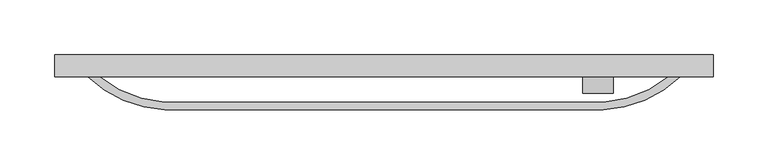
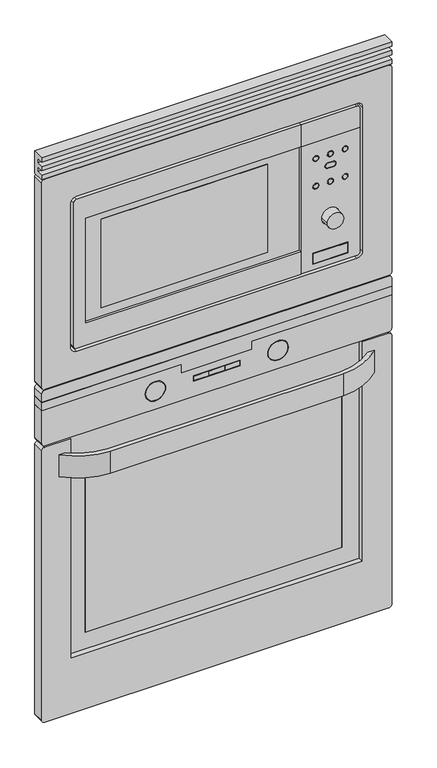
"""IFC4 building model written with IfcOpenShell, lengths in millimetres: proxy geometry, Horno_-_Microondas__Oven_-_Microwave_16796 : Horno_-_Microondas__Oven_-_Microwave_16796."""

from ifc_helpers import new_model, si_unit, point, frame, frame_2d, origin, place, context, project, spatial, polyline, circle_curve, trimmed, segment, composite_curve, outline, extrude, source, transform, mapped, element, save


def specialty_equipment_90c1c6b7(model_context):
    return source(origin(), model_context, "Body", "SweptSolid", [
        extrude(outline(polyline([(0.0, 983.0), (-20.0, 983.0), (-20.0, 991.0), (-8.0, 991.0), (-8.0, 999.0), (-20.0, 999.0), (-20.0, 1007.0), (-8.0, 1007.0), (-8.0, 1015.0), (-20.0, 1015.0), (-20.0, 1023.0), (0.0, 1023.0), (0.0, 983.0)])), frame((-300.0, 0.0, 0.0), z_axis=(1.0, 0.0, 0.0), x_axis=(0.0, 1.0, 0.0)), (0.0, 0.0, 1.0), 600.0),
        extrude(outline(composite_curve([segment(polyline([(-270.0, -20.0), (-259.3060788, -20.0)]), True, "CONTINUOUS"), segment(trimmed(circle_curve(frame_2d((-193.2923747, 62.3177923)), 105.5179039), [point((-259.3060788, -20.0))], [point((-199.7878096, -43.0))], True, "CARTESIAN"), True, "CONTINUOUS"), segment(polyline([(-199.7878096, -43.0), (199.7878096, -43.0)]), True, "CONTINUOUS"), segment(trimmed(circle_curve(frame_2d((193.2923747, 62.3177923)), 105.5179039), [point((199.7878096, -43.0))], [point((259.3060788, -20.0))], True, "CARTESIAN"), True, "CONTINUOUS"), segment(polyline([(259.3060788, -20.0), (270.0, -20.0)]), True, "CONTINUOUS"), segment(trimmed(circle_curve(frame_2d((193.2923747, 62.3177923)), 112.5179039), [point((270.0, -20.0))], [point((200.0, -50.0))], False, "CARTESIAN"), True, "CONTINUOUS"), segment(polyline([(200.0, -50.0), (-200.0, -50.0)]), True, "CONTINUOUS"), segment(trimmed(circle_curve(frame_2d((-193.2923747, 62.3177923)), 112.5179039), [point((-200.0, -50.0))], [point((-270.0, -20.0))], False, "CARTESIAN"), True, "CONTINUOUS")], self_intersect=False)), frame((0.0, 0.0, 435.0), z_axis=(0.0, 0.0, 1.0), x_axis=(1.0, 0.0, 0.0)), (0.0, 0.0, 1.0), 40.0),
        extrude(outline(polyline([(90.0, -15.0), (-195.0, -15.0), (-195.0, -5.0), (90.0, -5.0), (90.0, -15.0)])), frame((0.0, 0.0, 712.0), z_axis=(0.0, 0.0, 1.0), x_axis=(1.0, 0.0, 0.0)), (0.0, 0.0, 1.0), 160.0),
        extrude(outline(polyline([(220.0, -10.0), (-220.0, -10.0), (-220.0, 0.0), (220.0, 0.0), (220.0, -10.0)])), frame((0.0, 0.0, 130.0), z_axis=(0.0, 0.0, 1.0), x_axis=(1.0, 0.0, 0.0)), (0.0, 0.0, 1.0), 284.0),
        extrude(outline(composite_curve([segment(trimmed(circle_curve(frame_2d((744.5, 195.0)), 14.0), [point((744.5, 181.0))], [point((744.5, 209.0))], False, "CARTESIAN"), True, "CONTINUOUS"), segment(trimmed(circle_curve(frame_2d((744.5, 195.0)), 14.0), [point((744.5, 209.0))], [point((744.5, 181.0))], False, "CARTESIAN"), True, "CONTINUOUS")], self_intersect=False)), frame((0.0, -35.0, 0.0), z_axis=(0.0, 1.0, 0.0), x_axis=(0.0, 0.0, 1.0)), (0.0, 0.0, 1.0), 35.0),
        extrude(outline(polyline([(580.0, 300.0), (580.0, -300.0), (565.0, -300.0), (565.0, -60.0), (550.0, -60.0), (550.0, 60.0), (565.0, 60.0), (565.0, 300.0), (580.0, 300.0)])), frame((0.0, -20.0, 0.0), z_axis=(0.0, 1.0, 0.0), x_axis=(0.0, 0.0, 1.0)), (0.0, 0.0, 1.0), 20.0),
        extrude(outline(composite_curve([segment(trimmed(circle_curve(frame_2d((922.0, 240.0)), 5.0), [point((922.0, 245.0))], [point((927.0, 240.0))], False, "CARTESIAN"), True, "CONTINUOUS"), segment(polyline([(927.0, 240.0), (927.0, 145.0), (887.0, 145.0), (887.0, 245.0), (922.0, 245.0)]), True, "CONTINUOUS")], self_intersect=False)), frame((0.0, -20.0, 0.0), z_axis=(0.0, 1.0, 0.0), x_axis=(0.0, 0.0, 1.0)), (0.0, 0.0, 1.0), 20.0),
        extrude(outline(polyline([(887.0, 144.0), (887.0, -225.0), (697.0, -225.0), (697.0, 144.0), (887.0, 144.0)]), holes=[polyline([(872.0, 90.0), (712.0, 90.0), (712.0, -195.0), (872.0, -195.0), (872.0, 90.0)])]), frame((0.0, -15.0, 0.0), z_axis=(0.0, 1.0, 0.0), x_axis=(0.0, 0.0, 1.0)), (0.0, 0.0, 1.0), 10.0),
        extrude(outline(polyline([(100.0, 250.0), (497.0, 250.0), (494.0, 200.0), (494.0, -200.0), (497.0, -250.0), (100.0, -250.0), (100.0, 250.0)]), holes=[polyline([(414.0, 220.0), (130.0, 220.0), (130.0, -220.0), (414.0, -220.0), (414.0, 220.0)])]), frame((0.0, -10.0, 0.0), z_axis=(0.0, 1.0, 0.0), x_axis=(0.0, 0.0, 1.0)), (0.0, 0.0, 1.0), 10.0),
        extrude(outline(composite_curve([segment(polyline([(600.0, 295.0), (600.0, -295.0)]), True, "CONTINUOUS"), segment(trimmed(circle_curve(frame_2d((595.0, -295.0)), 5.0), [point((600.0, -295.0))], [point((595.0, -300.0))], False, "CARTESIAN"), True, "CONTINUOUS"), segment(polyline([(595.0, -300.0), (580.0, -300.0), (580.0, 300.0), (595.0, 300.0)]), True, "CONTINUOUS"), segment(trimmed(circle_curve(frame_2d((595.0, 295.0)), 5.0), [point((595.0, 300.0))], [point((600.0, 295.0))], False, "CARTESIAN"), True, "CONTINUOUS")], self_intersect=False)), frame((0.0, -20.0, 0.0), z_axis=(0.0, 1.0, 0.0), x_axis=(0.0, 0.0, 1.0)), (0.0, 0.0, 1.0), 20.0),
        extrude(outline(composite_curve([segment(polyline([(492.0, -300.0), (5.0, -300.0)]), True, "CONTINUOUS"), segment(trimmed(circle_curve(frame_2d((5.0, -295.0)), 5.0), [point((5.0, -300.0))], [point((0.0, -295.0))], False, "CARTESIAN"), True, "CONTINUOUS"), segment(polyline([(0.0, -295.0), (0.0, 295.0)]), True, "CONTINUOUS"), segment(trimmed(circle_curve(frame_2d((5.0, 295.0)), 5.0), [point((0.0, 295.0))], [point((5.0, 300.0))], False, "CARTESIAN"), True, "CONTINUOUS"), segment(polyline([(5.0, 300.0), (492.0, 300.0)]), True, "CONTINUOUS"), segment(trimmed(circle_curve(frame_2d((492.0, 295.0)), 5.0), [point((492.0, 300.0))], [point((497.0, 295.0))], False, "CARTESIAN"), True, "CONTINUOUS"), segment(polyline([(497.0, 295.0), (497.0, 250.0), (100.0, 250.0), (100.0, -250.0), (497.0, -250.0), (497.0, -295.0)]), True, "CONTINUOUS"), segment(trimmed(circle_curve(frame_2d((492.0, -295.0)), 5.0), [point((497.0, -295.0))], [point((492.0, -300.0))], False, "CARTESIAN"), True, "CONTINUOUS")], self_intersect=False)), frame((0.0, -20.0, 0.0), z_axis=(0.0, 1.0, 0.0), x_axis=(0.0, 0.0, 1.0)), (0.0, 0.0, 1.0), 20.0),
        extrude(outline(composite_curve([segment(trimmed(circle_curve(frame_2d((505.0, 295.0)), 5.0), [point((500.0, 295.0))], [point((505.0, 300.0))], False, "CARTESIAN"), True, "CONTINUOUS"), segment(polyline([(505.0, 300.0), (565.0, 300.0), (565.0, 60.0), (550.0, 60.0), (550.0, -60.0), (565.0, -60.0), (565.0, -300.0), (505.0, -300.0)]), True, "CONTINUOUS"), segment(trimmed(circle_curve(frame_2d((505.0, -295.0)), 5.0), [point((505.0, -300.0))], [point((500.0, -295.0))], False, "CARTESIAN"), True, "CONTINUOUS"), segment(polyline([(500.0, -295.0), (500.0, 295.0)]), True, "CONTINUOUS")], self_intersect=False), holes=[polyline([(537.5, 40.0), (527.5, 40.0), (527.5, -40.0), (537.5, -40.0), (537.5, 40.0)]), composite_curve([segment(trimmed(circle_curve(frame_2d((532.5, 105.0)), 17.5), [point((532.5, 87.5))], [point((532.5, 122.5))], True, "CARTESIAN"), True, "CONTINUOUS"), segment(trimmed(circle_curve(frame_2d((532.5, 105.0)), 17.5), [point((532.5, 122.5))], [point((532.5, 87.5))], True, "CARTESIAN"), True, "CONTINUOUS")], self_intersect=False), composite_curve([segment(trimmed(circle_curve(frame_2d((532.5, -105.0)), 17.5), [point((532.5, -87.5))], [point((532.5, -122.5))], True, "CARTESIAN"), True, "CONTINUOUS"), segment(trimmed(circle_curve(frame_2d((532.5, -105.0)), 17.5), [point((532.5, -122.5))], [point((532.5, -87.5))], True, "CARTESIAN"), True, "CONTINUOUS")], self_intersect=False)]), frame((0.0, -20.0, 0.0), z_axis=(0.0, 1.0, 0.0), x_axis=(0.0, 0.0, 1.0)), (0.0, 0.0, 1.0), 20.0),
        extrude(outline(composite_curve([segment(trimmed(circle_curve(frame_2d((607.0, 295.0)), 5.0), [point((602.0, 295.0))], [point((607.0, 300.0))], False, "CARTESIAN"), True, "CONTINUOUS"), segment(polyline([(607.0, 300.0), (977.0, 300.0)]), True, "CONTINUOUS"), segment(trimmed(circle_curve(frame_2d((977.0, 295.0)), 5.0), [point((977.0, 300.0))], [point((982.0, 295.0))], False, "CARTESIAN"), True, "CONTINUOUS"), segment(polyline([(982.0, 295.0), (982.0, -295.0)]), True, "CONTINUOUS"), segment(trimmed(circle_curve(frame_2d((977.0, -295.0)), 5.0), [point((982.0, -295.0))], [point((977.0, -300.0))], False, "CARTESIAN"), True, "CONTINUOUS"), segment(polyline([(977.0, -300.0), (607.0, -300.0)]), True, "CONTINUOUS"), segment(trimmed(circle_curve(frame_2d((607.0, -295.0)), 5.0), [point((607.0, -300.0))], [point((602.0, -295.0))], False, "CARTESIAN"), True, "CONTINUOUS"), segment(polyline([(602.0, -295.0), (602.0, 295.0)]), True, "CONTINUOUS")], self_intersect=False), holes=[composite_curve([segment(trimmed(circle_curve(frame_2d((922.0, 240.0)), 10.0), [point((932.0, 240.0))], [point((922.0, 250.0))], True, "CARTESIAN"), True, "CONTINUOUS"), segment(polyline([(922.0, 250.0), (662.0, 250.0)]), True, "CONTINUOUS"), segment(trimmed(circle_curve(frame_2d((662.0, 240.0)), 10.0), [point((662.0, 250.0))], [point((652.0, 240.0))], True, "CARTESIAN"), True, "CONTINUOUS"), segment(polyline([(652.0, 240.0), (652.0, -240.0)]), True, "CONTINUOUS"), segment(trimmed(circle_curve(frame_2d((662.0, -240.0)), 10.0), [point((652.0, -240.0))], [point((662.0, -250.0))], True, "CARTESIAN"), True, "CONTINUOUS"), segment(polyline([(662.0, -250.0), (922.0, -250.0)]), True, "CONTINUOUS"), segment(trimmed(circle_curve(frame_2d((922.0, -240.0)), 10.0), [point((922.0, -250.0))], [point((932.0, -240.0))], True, "CARTESIAN"), True, "CONTINUOUS"), segment(polyline([(932.0, -240.0), (932.0, 240.0)]), True, "CONTINUOUS")], self_intersect=False)]), frame((0.0, -20.0, 0.0), z_axis=(0.0, 1.0, 0.0), x_axis=(0.0, 0.0, 1.0)), (0.0, 0.0, 1.0), 20.0),
        extrude(outline(composite_curve([segment(polyline([(927.0, 144.0), (927.0, -240.0)]), True, "CONTINUOUS"), segment(trimmed(circle_curve(frame_2d((922.0, -240.0)), 5.0), [point((927.0, -240.0))], [point((922.0, -245.0))], False, "CARTESIAN"), True, "CONTINUOUS"), segment(polyline([(922.0, -245.0), (662.0, -245.0)]), True, "CONTINUOUS"), segment(trimmed(circle_curve(frame_2d((662.0, -240.0)), 5.0), [point((662.0, -245.0))], [point((657.0, -240.0))], False, "CARTESIAN"), True, "CONTINUOUS"), segment(polyline([(657.0, -240.0), (657.0, 144.0), (697.0, 144.0), (697.0, -225.0), (887.0, -225.0), (887.0, 144.0), (927.0, 144.0)]), True, "CONTINUOUS")], self_intersect=False)), frame((0.0, -20.0, 0.0), z_axis=(0.0, 1.0, 0.0), x_axis=(0.0, 0.0, 1.0)), (0.0, 0.0, 1.0), 20.0),
        extrude(outline(composite_curve([segment(polyline([(657.0, 145.0), (657.0, 240.0)]), True, "CONTINUOUS"), segment(trimmed(circle_curve(frame_2d((662.0, 240.0)), 5.0), [point((657.0, 240.0))], [point((662.0, 245.0))], False, "CARTESIAN"), True, "CONTINUOUS"), segment(polyline([(662.0, 245.0), (887.0, 245.0), (887.0, 145.0), (657.0, 145.0)]), True, "CONTINUOUS")], self_intersect=False), holes=[polyline([(687.0, 225.0), (667.0, 225.0), (667.0, 165.0), (687.0, 165.0), (687.0, 225.0)]), composite_curve([segment(trimmed(circle_curve(frame_2d((807.0, 170.0)), 5.0), [point((807.0, 165.0))], [point((807.0, 175.0))], True, "CARTESIAN"), True, "CONTINUOUS"), segment(trimmed(circle_curve(frame_2d((807.0, 170.0)), 5.0), [point((807.0, 175.0))], [point((807.0, 165.0))], True, "CARTESIAN"), True, "CONTINUOUS")], self_intersect=False), composite_curve([segment(trimmed(circle_curve(frame_2d((807.0, 195.0)), 5.0), [point((807.0, 190.0))], [point((807.0, 200.0))], True, "CARTESIAN"), True, "CONTINUOUS"), segment(trimmed(circle_curve(frame_2d((807.0, 195.0)), 5.0), [point((807.0, 200.0))], [point((807.0, 190.0))], True, "CARTESIAN"), True, "CONTINUOUS")], self_intersect=False), composite_curve([segment(trimmed(circle_curve(frame_2d((807.0, 220.0)), 5.0), [point((807.0, 215.0))], [point((807.0, 225.0))], True, "CARTESIAN"), True, "CONTINUOUS"), segment(trimmed(circle_curve(frame_2d((807.0, 220.0)), 5.0), [point((807.0, 225.0))], [point((807.0, 215.0))], True, "CARTESIAN"), True, "CONTINUOUS")], self_intersect=False), composite_curve([segment(trimmed(circle_curve(frame_2d((857.0, 220.0)), 5.0), [point((857.0, 215.0))], [point((857.0, 225.0))], True, "CARTESIAN"), True, "CONTINUOUS"), segment(trimmed(circle_curve(frame_2d((857.0, 220.0)), 5.0), [point((857.0, 225.0))], [point((857.0, 215.0))], True, "CARTESIAN"), True, "CONTINUOUS")], self_intersect=False), composite_curve([segment(trimmed(circle_curve(frame_2d((857.0, 195.0)), 5.0), [point((857.0, 190.0))], [point((857.0, 200.0))], True, "CARTESIAN"), True, "CONTINUOUS"), segment(trimmed(circle_curve(frame_2d((857.0, 195.0)), 5.0), [point((857.0, 200.0))], [point((857.0, 190.0))], True, "CARTESIAN"), True, "CONTINUOUS")], self_intersect=False), composite_curve([segment(trimmed(circle_curve(frame_2d((857.0, 170.0)), 5.0), [point((857.0, 165.0))], [point((857.0, 175.0))], True, "CARTESIAN"), True, "CONTINUOUS"), segment(trimmed(circle_curve(frame_2d((857.0, 170.0)), 5.0), [point((857.0, 175.0))], [point((857.0, 165.0))], True, "CARTESIAN"), True, "CONTINUOUS")], self_intersect=False), composite_curve([segment(trimmed(circle_curve(frame_2d((837.0, 199.4669493)), 5.0), [point((842.0, 199.4669493))], [point((832.0, 199.4669493))], True, "CARTESIAN"), True, "CONTINUOUS"), segment(polyline([(832.0, 199.4669493), (832.0, 190.5330507)]), True, "CONTINUOUS"), segment(trimmed(circle_curve(frame_2d((837.0, 190.5330507)), 5.0), [point((832.0, 190.5330507))], [point((842.0, 190.5330507))], True, "CARTESIAN"), True, "CONTINUOUS"), segment(polyline([(842.0, 190.5330507), (842.0, 199.4669493)]), True, "CONTINUOUS")], self_intersect=False), composite_curve([segment(trimmed(circle_curve(frame_2d((744.5, 195.0)), 15.0), [point((744.5, 180.0))], [point((744.5, 210.0))], True, "CARTESIAN"), True, "CONTINUOUS"), segment(trimmed(circle_curve(frame_2d((744.5, 195.0)), 15.0), [point((744.5, 210.0))], [point((744.5, 180.0))], True, "CARTESIAN"), True, "CONTINUOUS")], self_intersect=False)]), frame((0.0, -20.0, 0.0), z_axis=(0.0, 1.0, 0.0), x_axis=(0.0, 0.0, 1.0)), (0.0, 0.0, 1.0), 20.0),
        extrude(outline(composite_curve([segment(trimmed(circle_curve(frame_2d((532.5, -105.0)), 16.5), [point((532.5, -88.5))], [point((532.5, -121.5))], False, "CARTESIAN"), True, "CONTINUOUS"), segment(trimmed(circle_curve(frame_2d((532.5, -105.0)), 16.5), [point((532.5, -121.5))], [point((532.5, -88.5))], False, "CARTESIAN"), True, "CONTINUOUS")], self_intersect=False)), frame((0.0, -20.0, 0.0), z_axis=(0.0, 1.0, 0.0), x_axis=(0.0, 0.0, 1.0)), (0.0, 0.0, 1.0), 20.0),
        extrude(outline(composite_curve([segment(trimmed(circle_curve(frame_2d((532.5, 105.0)), 16.5), [point((532.5, 88.5))], [point((532.5, 121.5))], False, "CARTESIAN"), True, "CONTINUOUS"), segment(trimmed(circle_curve(frame_2d((532.5, 105.0)), 16.5), [point((532.5, 121.5))], [point((532.5, 88.5))], False, "CARTESIAN"), True, "CONTINUOUS")], self_intersect=False)), frame((0.0, -20.0, 0.0), z_axis=(0.0, 1.0, 0.0), x_axis=(0.0, 0.0, 1.0)), (0.0, 0.0, 1.0), 20.0),
        extrude(outline(polyline([(-14.0, -20.0), (-39.0, -20.0), (-39.0, 0.0), (-14.0, 0.0), (-14.0, -20.0)])), frame((0.0, 0.0, 528.5), z_axis=(0.0, 0.0, 1.0), x_axis=(1.0, 0.0, 0.0)), (0.0, 0.0, 1.0), 8.0),
        extrude(outline(polyline([(39.0, -20.0), (14.0, -20.0), (14.0, 0.0), (39.0, 0.0), (39.0, -20.0)])), frame((0.0, 0.0, 528.5), z_axis=(0.0, 0.0, 1.0), x_axis=(1.0, 0.0, 0.0)), (0.0, 0.0, 1.0), 8.0),
        extrude(outline(polyline([(13.0, -20.0), (-13.0, -20.0), (-13.0, 0.0), (13.0, 0.0), (13.0, -20.0)])), frame((0.0, 0.0, 528.5), z_axis=(0.0, 0.0, 1.0), x_axis=(1.0, 0.0, 0.0)), (0.0, 0.0, 1.0), 8.0),
        extrude(outline(polyline([(224.0, -20.0), (166.0, -20.0), (166.0, 0.0), (224.0, 0.0), (224.0, -20.0)])), frame((0.0, 0.0, 668.0), z_axis=(0.0, 0.0, 1.0), x_axis=(1.0, 0.0, 0.0)), (0.0, 0.0, 1.0), 18.0),
        extrude(outline(composite_curve([segment(trimmed(circle_curve(frame_2d((857.0, 195.0)), 4.0), [point((857.0, 191.0))], [point((857.0, 199.0))], False, "CARTESIAN"), True, "CONTINUOUS"), segment(trimmed(circle_curve(frame_2d((857.0, 195.0)), 4.0), [point((857.0, 199.0))], [point((857.0, 191.0))], False, "CARTESIAN"), True, "CONTINUOUS")], self_intersect=False)), frame((0.0, -20.0, 0.0), z_axis=(0.0, 1.0, 0.0), x_axis=(0.0, 0.0, 1.0)), (0.0, 0.0, 1.0), 20.0),
        extrude(outline(composite_curve([segment(polyline([(833.0, 190.5330507), (833.0, 199.4669493)]), True, "CONTINUOUS"), segment(trimmed(circle_curve(frame_2d((837.0, 199.4669493)), 4.0), [point((833.0, 199.4669493))], [point((841.0, 199.4669493))], False, "CARTESIAN"), True, "CONTINUOUS"), segment(polyline([(841.0, 199.4669493), (841.0, 190.5330507)]), True, "CONTINUOUS"), segment(trimmed(circle_curve(frame_2d((837.0, 190.5330507)), 4.0), [point((841.0, 190.5330507))], [point((833.0, 190.5330507))], False, "CARTESIAN"), True, "CONTINUOUS")], self_intersect=False)), frame((0.0, -20.0, 0.0), z_axis=(0.0, 1.0, 0.0), x_axis=(0.0, 0.0, 1.0)), (0.0, 0.0, 1.0), 20.0),
        extrude(outline(composite_curve([segment(trimmed(circle_curve(frame_2d((807.0, 195.0)), 4.0), [point((807.0, 191.0))], [point((807.0, 199.0))], False, "CARTESIAN"), True, "CONTINUOUS"), segment(trimmed(circle_curve(frame_2d((807.0, 195.0)), 4.0), [point((807.0, 199.0))], [point((807.0, 191.0))], False, "CARTESIAN"), True, "CONTINUOUS")], self_intersect=False)), frame((0.0, -20.0, 0.0), z_axis=(0.0, 1.0, 0.0), x_axis=(0.0, 0.0, 1.0)), (0.0, 0.0, 1.0), 20.0),
        extrude(outline(composite_curve([segment(trimmed(circle_curve(frame_2d((857.0, 170.0)), 4.0), [point((857.0, 166.0))], [point((857.0, 174.0))], False, "CARTESIAN"), True, "CONTINUOUS"), segment(trimmed(circle_curve(frame_2d((857.0, 170.0)), 4.0), [point((857.0, 174.0))], [point((857.0, 166.0))], False, "CARTESIAN"), True, "CONTINUOUS")], self_intersect=False)), frame((0.0, -20.0, 0.0), z_axis=(0.0, 1.0, 0.0), x_axis=(0.0, 0.0, 1.0)), (0.0, 0.0, 1.0), 20.0),
        extrude(outline(composite_curve([segment(trimmed(circle_curve(frame_2d((807.0, 170.0)), 4.0), [point((807.0, 166.0))], [point((807.0, 174.0))], False, "CARTESIAN"), True, "CONTINUOUS"), segment(trimmed(circle_curve(frame_2d((807.0, 170.0)), 4.0), [point((807.0, 174.0))], [point((807.0, 166.0))], False, "CARTESIAN"), True, "CONTINUOUS")], self_intersect=False)), frame((0.0, -20.0, 0.0), z_axis=(0.0, 1.0, 0.0), x_axis=(0.0, 0.0, 1.0)), (0.0, 0.0, 1.0), 20.0),
        extrude(outline(composite_curve([segment(trimmed(circle_curve(frame_2d((857.0, 220.0)), 4.0), [point((857.0, 216.0))], [point((857.0, 224.0))], False, "CARTESIAN"), True, "CONTINUOUS"), segment(trimmed(circle_curve(frame_2d((857.0, 220.0)), 4.0), [point((857.0, 224.0))], [point((857.0, 216.0))], False, "CARTESIAN"), True, "CONTINUOUS")], self_intersect=False)), frame((0.0, -20.0, 0.0), z_axis=(0.0, 1.0, 0.0), x_axis=(0.0, 0.0, 1.0)), (0.0, 0.0, 1.0), 20.0),
        extrude(outline(composite_curve([segment(trimmed(circle_curve(frame_2d((807.0, 220.0)), 4.0), [point((807.0, 216.0))], [point((807.0, 224.0))], False, "CARTESIAN"), True, "CONTINUOUS"), segment(trimmed(circle_curve(frame_2d((807.0, 220.0)), 4.0), [point((807.0, 224.0))], [point((807.0, 216.0))], False, "CARTESIAN"), True, "CONTINUOUS")], self_intersect=False)), frame((0.0, -20.0, 0.0), z_axis=(0.0, 1.0, 0.0), x_axis=(0.0, 0.0, 1.0)), (0.0, 0.0, 1.0), 20.0),
    ])


if __name__ == "__main__":
    model = new_model("IFC4")
    model_context = context("Model", 3, world=origin())
    ifc_project = project(units=[si_unit("LENGTHUNIT", "METRE", prefix="MILLI")], contexts=[model_context])
    site = spatial("IfcSite", under=ifc_project)
    building = spatial("IfcBuilding", under=site)
    placement = place(None, origin())
    specialty_equipment_shape = specialty_equipment_90c1c6b7(model_context)
    element("IfcBuildingElementProxy", 1, Name="Horno_-_Microondas__Oven_-_Microwave_16796 : Horno_-_Microondas__Oven_-_Microwave_16796", ObjectType="Horno_-_Microondas__Oven_-_Microwave_16796 : Horno_-_Microondas__Oven_-_Microwave_16796", at=placement, inside=building, context=model_context, shape_type="MappedRepresentation", body=[
        mapped(specialty_equipment_shape, transform((0.0, 0.0, 0.0), x_axis=(1.0, 0.0, 0.0), y_axis=(0.0, 1.0, 0.0), z_axis=(0.0, 0.0, 1.0))),
    ])
    save(model, "model.ifc")
